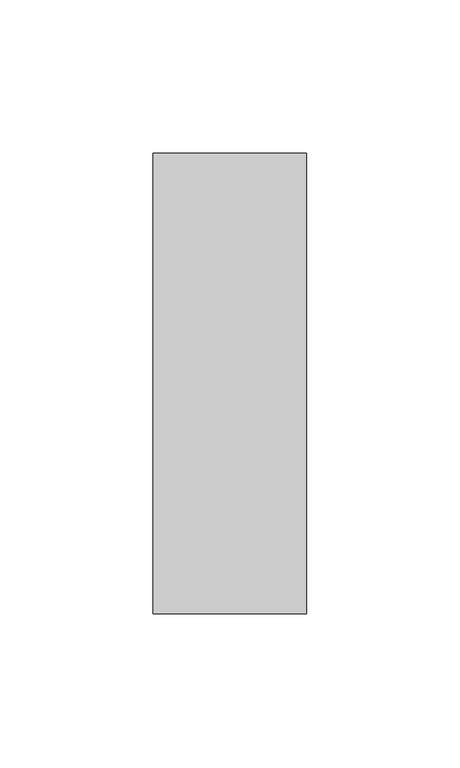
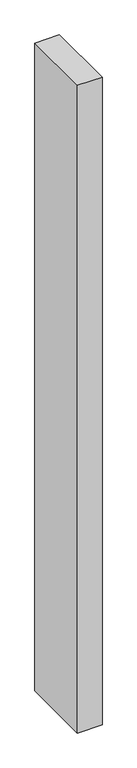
"""IFC4 building model written with IfcOpenShell, lengths in millimetres: member geometry, Прямоугольный импост : 50 x 150 мм."""

from ifc_helpers import new_model, si_unit, frame, origin, place, context, project, spatial, polyline, outline, extrude, source, transform, mapped, element, save


def member_4604e3a3(model_context):
    return source(origin(), model_context, "Body", "SweptSolid", [
        extrude(outline(polyline([(25.0, 75.0), (25.0, -75.0), (-25.0, -75.0), (-25.0, 75.0), (25.0, 75.0)])), frame((0.0, 0.0, -1392.8684108), z_axis=(0.0, 0.0, 1.0), x_axis=(1.0, 0.0, 0.0)), (0.0, 0.0, 1.0), 1392.8684108),
    ])


if __name__ == "__main__":
    model = new_model("IFC4")
    model_context = context("Model", 3, world=origin())
    ifc_project = project(units=[si_unit("LENGTHUNIT", "METRE", prefix="MILLI")], contexts=[model_context])
    site = spatial("IfcSite", under=ifc_project)
    building = spatial("IfcBuilding", under=site)
    placement = place(None, origin())
    member_shape = member_4604e3a3(model_context)
    element("IfcMember", 1, ObjectType="Прямоугольный импост : 50 x 150 мм", at=placement, inside=building, context=model_context, shape_type="MappedRepresentation", body=[
        mapped(member_shape, transform((0.0, 0.0, 0.0), x_axis=(1.0, 0.0, 0.0), y_axis=(0.0, 1.0, 0.0), z_axis=(0.0, 0.0, 1.0))),
    ])
    save(model, "model.ifc")
